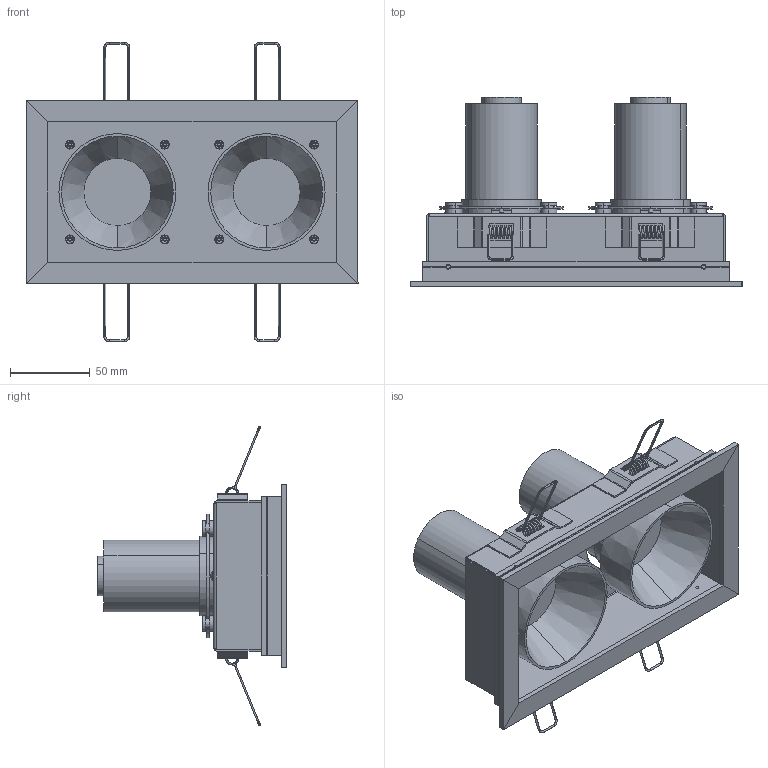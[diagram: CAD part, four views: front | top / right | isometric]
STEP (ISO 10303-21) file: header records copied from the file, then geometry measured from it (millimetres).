
FILE_DESCRIPTION (( 'STEP AP214' ), '1' );
FILE_NAME ('Ringo Box 1.2.STEP', '2018-04-24T14:52:46', ( 'tecnica2' ), ( 'Microsoft' ), 'SwSTEP 2.0', 'SolidWorks 2016', '' );
FILE_SCHEMA (( 'AUTOMOTIVE_DESIGN' ));
Length unit declared in the file: millimetre
Products named in the file (15): Ringo Box 1.2; Remache 4.0-Generico_*7; M3 -Avellanedo Torx_6; Arandela Giro_reducida; prisionero M3x4; aro giratorio_lamp50(para pieza giro); Pieza interior basculanates ringO_R1 sin teton; MODULOS VS-BIM_10W; prisionero M3x3; Muelle pinza_Primera instancia; escuadra muelle_Demetal; Marco Aluminio_2D50 (110x208); Perfil Marco_2D50 L:208mm roscada; Perfil Marco_1D50 L:115mm; Caja_Box 2D50 superficie
Assembly tree (46 placements, depth 3):
  Ringo Box 1.2
    Caja_Box 2D50 superficie
    Marco Aluminio_2D50 (110x208)
      Perfil Marco_1D50 L:115mm  x2
      Perfil Marco_2D50 L:208mm roscada  x2
    escuadra muelle_Demetal  x4
    Muelle pinza_Primera instancia  x4
    prisionero M3x3  x4
    MODULOS VS-BIM_10W  x2
    Pieza interior basculanates ringO_R1 sin teton  x2
    aro giratorio_lamp50(para pieza giro)  x2
    prisionero M3x4  x2
    Arandela Giro_reducida  x8
    M3 -Avellanedo Torx_6  x8
    Remache 4.0-Generico_*7  x4
Bounding box: 208 x 118.4 x 187.77 mm (x, y, z)
Volume: 405105.2 mm3; surface area: 230092.4 mm2
Topology: 45 solids, 45 shells, 1214 faces, 3030 edges, 1878 vertices
Faces by surface type: plane 478, cylinder 444, torus 120, cone 80, sphere 64, bspline 28
Entity records: 19349 total; most frequent: CARTESIAN_POINT 8324, DIRECTION 2220, ORIENTED_EDGE 2098, EDGE_CURVE 1049, AXIS2_PLACEMENT_3D 840, VERTEX_POINT 666, LINE 540, VECTOR 540
